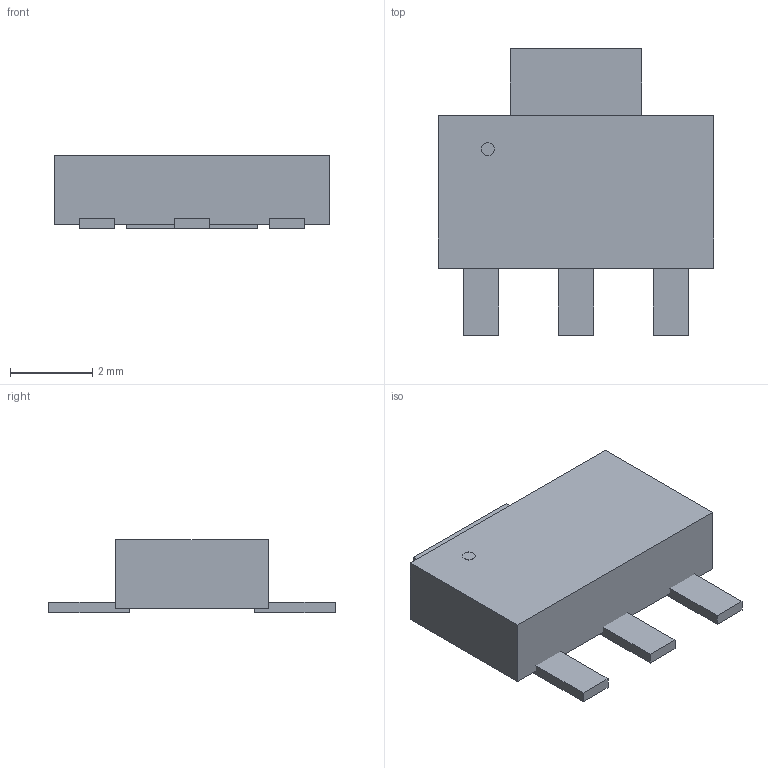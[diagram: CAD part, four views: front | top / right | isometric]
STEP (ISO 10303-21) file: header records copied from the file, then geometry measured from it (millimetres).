
FILE_DESCRIPTION(('FreeCAD Model'),'2;1');
FILE_NAME('Open CASCADE Shape Model','2026-09-21T21:53:17',('FreeCAD'),( 'FreeCAD'),'Open CASCADE STEP processor 7.8','FreeCAD','Unknown');
FILE_SCHEMA(('AUTOMOTIVE_DESIGN { 1 0 10303 214 1 1 1 1 }'));
Length unit declared in the file: millimetre
Products named in the file (1): Open CASCADE STEP translator 7.8 9
Bounding box: 6.7 x 6.95 x 1.79 mm (x, y, z)
Volume: 44.6 mm3; surface area: 114.2 mm2
Topology: 6 solids, 6 shells, 48 faces, 108 edges, 72 vertices
Faces by surface type: plane 48
Entity records: 1312 total; most frequent: CARTESIAN_POINT 229, ORIENTED_EDGE 216, DIRECTION 206, EDGE_CURVE 108, LINE 108, VECTOR 108, VERTEX_POINT 72, AXIS2_PLACEMENT_3D 49
